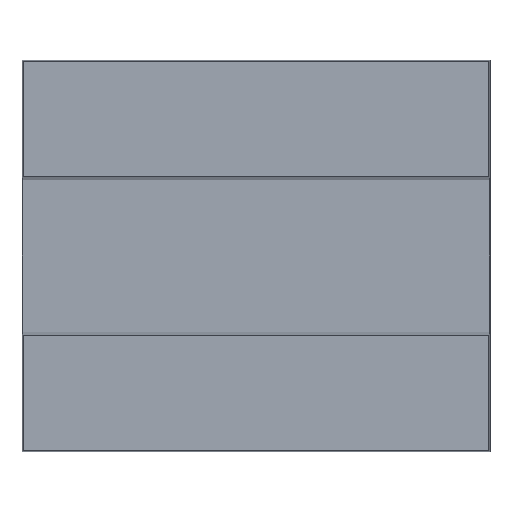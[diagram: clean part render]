
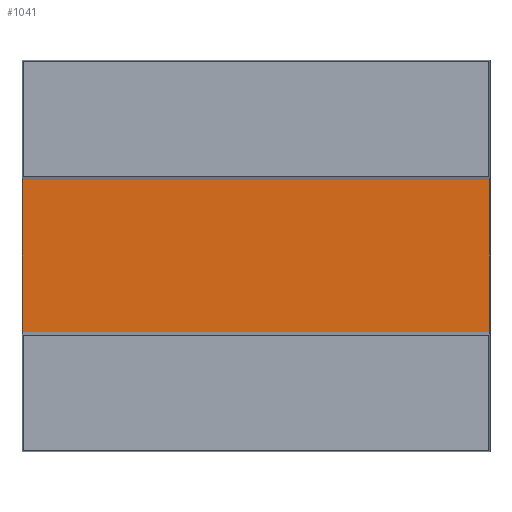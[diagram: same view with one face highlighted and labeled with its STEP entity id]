
A CAD part, front view. The second image highlights one B-rep face of the part: STEP entity #1041.
In plain terms, the highlighted planar face has unit normal (0, -1, 0).
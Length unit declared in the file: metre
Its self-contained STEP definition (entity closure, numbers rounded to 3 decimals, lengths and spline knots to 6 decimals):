
#117=ORIENTED_EDGE('',*,*,#375,.T.);
#118=ORIENTED_EDGE('',*,*,#369,.T.);
#119=ORIENTED_EDGE('',*,*,#376,.F.);
#120=ORIENTED_EDGE('',*,*,#350,.F.);
#350=EDGE_CURVE('',#489,#490,#586,.F.);
#369=EDGE_CURVE('',#499,#502,#605,.T.);
#375=EDGE_CURVE('',#489,#499,#611,.T.);
#376=EDGE_CURVE('',#490,#502,#612,.T.);
#489=VERTEX_POINT('',#1448);
#490=VERTEX_POINT('',#1450);
#499=VERTEX_POINT('',#1475);
#502=VERTEX_POINT('',#1482);
#586=LINE('',#1449,#704);
#605=LINE('',#1483,#723);
#611=LINE('',#1495,#729);
#612=LINE('',#1497,#730);
#704=VECTOR('',#1198,1.);
#723=VECTOR('',#1221,1.);
#729=VECTOR('',#1235,1.);
#730=VECTOR('',#1238,1.);
#817=EDGE_LOOP('',(#117,#118,#119,#120));
#905=FACE_BOUND('',#817,.T.);
#993=PLANE('',#1121);
#1041=ADVANCED_FACE('',(#905),#993,.F.);
#1121=AXIS2_PLACEMENT_3D('',#1498,#1239,#1240);
#1198=DIRECTION('',(0.,0.,1.));
#1221=DIRECTION('',(0.,0.,-1.));
#1235=DIRECTION('',(-1.,0.,0.));
#1238=DIRECTION('',(-1.,0.,0.));
#1239=DIRECTION('',(0.,1.,0.));
#1240=DIRECTION('',(0.,0.,1.));
#1448=CARTESIAN_POINT('',(0.053579,-0.0098,0.0175));
#1449=CARTESIAN_POINT('',(0.053579,-0.0098,-0.045));
#1450=CARTESIAN_POINT('',(0.053579,-0.0098,-0.0175));
#1475=CARTESIAN_POINT('',(-0.053579,-0.0098,0.0175));
#1482=CARTESIAN_POINT('',(-0.053579,-0.0098,-0.0175));
#1483=CARTESIAN_POINT('',(-0.053579,-0.0098,-0.045));
#1495=CARTESIAN_POINT('',(0.155342,-0.0098,0.0175));
#1497=CARTESIAN_POINT('',(0.155342,-0.0098,-0.0175));
#1498=CARTESIAN_POINT('',(0.155342,-0.0098,0.));
